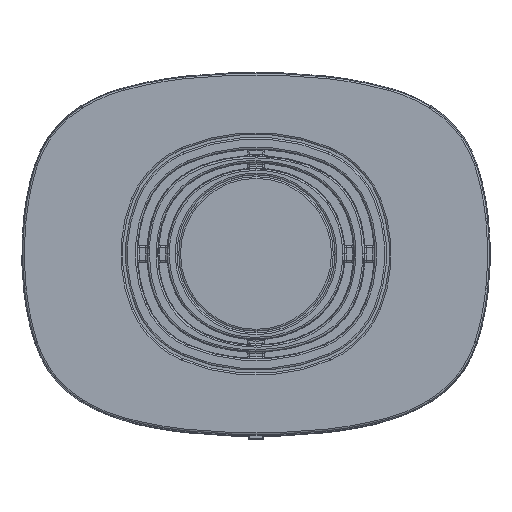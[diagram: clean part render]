
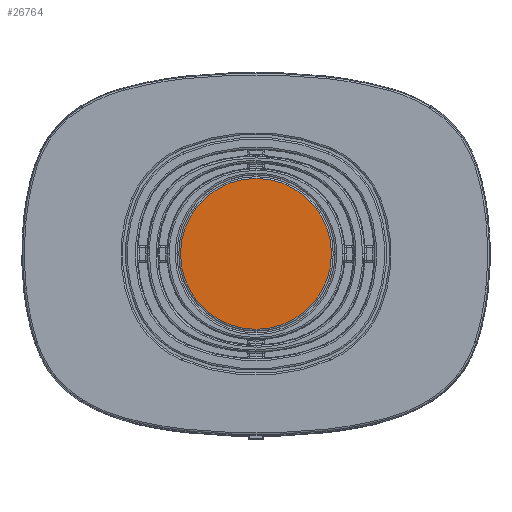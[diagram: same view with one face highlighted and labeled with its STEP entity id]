
A CAD part, top view. The second image highlights one B-rep face of the part: STEP entity #26764.
In plain terms, the highlighted planar face has unit normal (0, 0, 1).
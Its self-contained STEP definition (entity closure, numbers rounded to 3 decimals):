
#2622=CIRCLE('',#29284,86.2);
#6635=ORIENTED_EDGE('',*,*,#13882,.T.);
#13882=EDGE_CURVE('',#17641,#17641,#2622,.T.);
#17641=VERTEX_POINT('',#44525);
#22863=EDGE_LOOP('',(#6635));
#24609=FACE_BOUND('',#22863,.T.);
#26000=PLANE('',#29283);
#26764=ADVANCED_FACE('',(#24609),#26000,.T.);
#29283=AXIS2_PLACEMENT_3D('',#44523,#33622,#33623);
#29284=AXIS2_PLACEMENT_3D('',#44524,#33624,#33625);
#33622=DIRECTION('',(0.,0.,1.));
#33623=DIRECTION('',(1.,0.,0.));
#33624=DIRECTION('',(0.,0.,1.));
#33625=DIRECTION('',(1.,0.,0.));
#44523=CARTESIAN_POINT('',(-14.985,123.28,859.51));
#44524=CARTESIAN_POINT('',(0.,135.025,859.51));
#44525=CARTESIAN_POINT('',(86.2,135.025,859.51));
